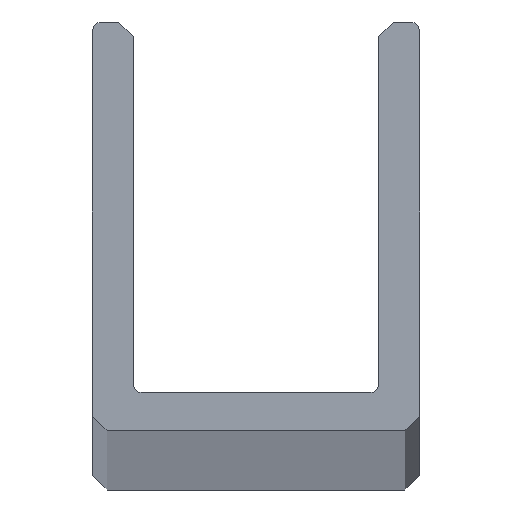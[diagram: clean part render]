
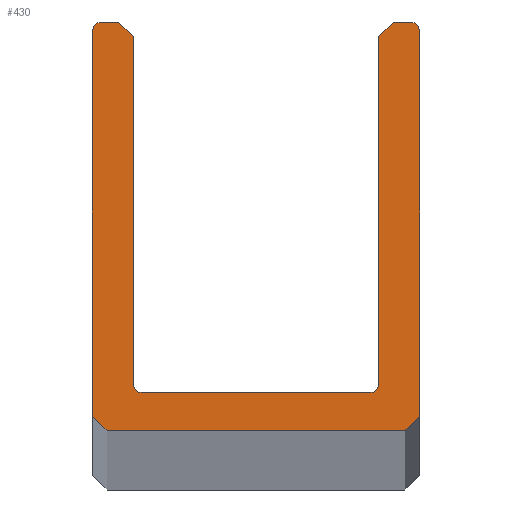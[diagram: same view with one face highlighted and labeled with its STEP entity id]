
A CAD part, top view. The second image highlights one B-rep face of the part: STEP entity #430.
In plain terms, the highlighted planar face has unit normal (0, 0, 1).
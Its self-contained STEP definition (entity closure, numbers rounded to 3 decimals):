
#2 = EDGE_CURVE ( 'NONE', #44, #163, #99, .T. ) ;
#3 = CARTESIAN_POINT ( 'NONE',  ( 5.1, -1.3, 1160. ) ) ;
#7 = LINE ( 'NONE', #456, #507 ) ;
#12 = ORIENTED_EDGE ( 'NONE', *, *, #264, .T. ) ;
#19 = CARTESIAN_POINT ( 'NONE',  ( 3.9, 0.3, 1160. ) ) ;
#44 = VERTEX_POINT ( 'NONE', #146 ) ;
#49 = CARTESIAN_POINT ( 'NONE',  ( 5.3, 12.7, 1160. ) ) ;
#53 = DIRECTION ( 'NONE',  ( -1., 0., 0. ) ) ;
#54 = CARTESIAN_POINT ( 'NONE',  ( -5.1, -1.3, 1160. ) ) ;
#56 = VECTOR ( 'NONE', #531, 1000. ) ;
#61 = LINE ( 'NONE', #403, #551 ) ;
#67 = VERTEX_POINT ( 'NONE', #92 ) ;
#69 = VERTEX_POINT ( 'NONE', #54 ) ;
#70 = CARTESIAN_POINT ( 'NONE',  ( 3.9, 0., 1160. ) ) ;
#71 = DIRECTION ( 'NONE',  ( 0., 1., 0. ) ) ;
#72 = EDGE_CURVE ( 'NONE', #439, #153, #409, .T. ) ;
#74 = VECTOR ( 'NONE', #547, 1000. ) ;
#88 = DIRECTION ( 'NONE',  ( 1., 0., 0. ) ) ;
#90 = EDGE_CURVE ( 'NONE', #153, #596, #323, .T. ) ;
#92 = CARTESIAN_POINT ( 'NONE',  ( 4.2, 12.2, 1160. ) ) ;
#95 = CARTESIAN_POINT ( 'NONE',  ( -5.6, -0.8, 1160. ) ) ;
#97 = CARTESIAN_POINT ( 'NONE',  ( -3.9, 0., 1160. ) ) ;
#99 = LINE ( 'NONE', #611, #327 ) ;
#102 = VECTOR ( 'NONE', #120, 1000. ) ;
#113 = CARTESIAN_POINT ( 'NONE',  ( -4.2, 0.3, 1160. ) ) ;
#114 = ORIENTED_EDGE ( 'NONE', *, *, #377, .T. ) ;
#117 = AXIS2_PLACEMENT_3D ( 'NONE', #597, #299, #53 ) ;
#120 = DIRECTION ( 'NONE',  ( 0., -1., 0. ) ) ;
#125 = AXIS2_PLACEMENT_3D ( 'NONE', #243, #446, #525 ) ;
#126 = CARTESIAN_POINT ( 'NONE',  ( -4.7, 12.7, 1160. ) ) ;
#128 = EDGE_CURVE ( 'NONE', #67, #298, #270, .T. ) ;
#132 = CARTESIAN_POINT ( 'NONE',  ( -5.3, 12.4, 1160. ) ) ;
#142 = EDGE_CURVE ( 'NONE', #298, #635, #483, .T. ) ;
#144 = ORIENTED_EDGE ( 'NONE', *, *, #2, .T. ) ;
#146 = CARTESIAN_POINT ( 'NONE',  ( 5.6, -0.8, 1160. ) ) ;
#147 = VECTOR ( 'NONE', #628, 1000. ) ;
#153 = VERTEX_POINT ( 'NONE', #113 ) ;
#158 = ORIENTED_EDGE ( 'NONE', *, *, #254, .T. ) ;
#163 = VERTEX_POINT ( 'NONE', #567 ) ;
#168 = CARTESIAN_POINT ( 'NONE',  ( 4.2, 0.3, 1160. ) ) ;
#170 = LINE ( 'NONE', #375, #573 ) ;
#175 = CARTESIAN_POINT ( 'NONE',  ( -5.6, -0.8, 1160. ) ) ;
#200 = AXIS2_PLACEMENT_3D ( 'NONE', #19, #624, #312 ) ;
#202 = DIRECTION ( 'NONE',  ( 0., 0., 1. ) ) ;
#210 = VECTOR ( 'NONE', #71, 1000. ) ;
#219 = CARTESIAN_POINT ( 'NONE',  ( -4.2, 0.3, 1160. ) ) ;
#231 = ORIENTED_EDGE ( 'NONE', *, *, #344, .T. ) ;
#243 = CARTESIAN_POINT ( 'NONE',  ( -3.9, 0.3, 1160. ) ) ;
#244 = DIRECTION ( 'NONE',  ( -1., 0., 0. ) ) ;
#248 = ORIENTED_EDGE ( 'NONE', *, *, #606, .T. ) ;
#250 = VERTEX_POINT ( 'NONE', #126 ) ;
#254 = EDGE_CURVE ( 'NONE', #321, #434, #580, .T. ) ;
#264 = EDGE_CURVE ( 'NONE', #539, #374, #328, .T. ) ;
#270 = LINE ( 'NONE', #168, #102 ) ;
#271 = CIRCLE ( 'NONE', #303, 0.3 ) ;
#280 = CARTESIAN_POINT ( 'NONE',  ( -5.6, 12.4, 1160. ) ) ;
#284 = VECTOR ( 'NONE', #467, 1000. ) ;
#288 = CARTESIAN_POINT ( 'NONE',  ( 4.7, 12.7, 1160. ) ) ;
#289 = ORIENTED_EDGE ( 'NONE', *, *, #463, .T. ) ;
#291 = ORIENTED_EDGE ( 'NONE', *, *, #626, .T. ) ;
#297 = DIRECTION ( 'NONE',  ( -0.707, -0.707, 0. ) ) ;
#298 = VERTEX_POINT ( 'NONE', #487 ) ;
#299 = DIRECTION ( 'NONE',  ( 0., 0., 1. ) ) ;
#301 = PLANE ( 'NONE',  #370 ) ;
#303 = AXIS2_PLACEMENT_3D ( 'NONE', #132, #333, #88 ) ;
#306 = ORIENTED_EDGE ( 'NONE', *, *, #90, .T. ) ;
#312 = DIRECTION ( 'NONE',  ( 1., 0., 0. ) ) ;
#318 = CARTESIAN_POINT ( 'NONE',  ( 5.6, -0.8, 1160. ) ) ;
#321 = VERTEX_POINT ( 'NONE', #388 ) ;
#323 = LINE ( 'NONE', #219, #210 ) ;
#324 = LINE ( 'NONE', #459, #284 ) ;
#327 = VECTOR ( 'NONE', #561, 1000. ) ;
#328 = LINE ( 'NONE', #384, #56 ) ;
#333 = DIRECTION ( 'NONE',  ( 0., 0., 1. ) ) ;
#344 = EDGE_CURVE ( 'NONE', #585, #321, #271, .T. ) ;
#345 = CARTESIAN_POINT ( 'NONE',  ( -5.3, 12.4, 1160. ) ) ;
#349 = LINE ( 'NONE', #600, #608 ) ;
#360 = DIRECTION ( 'NONE',  ( 0.707, 0.707, 0. ) ) ;
#364 = CARTESIAN_POINT ( 'NONE',  ( -4.2, 12.2, 1160. ) ) ;
#367 = DIRECTION ( 'NONE',  ( -1., 0., 0. ) ) ;
#370 = AXIS2_PLACEMENT_3D ( 'NONE', #345, #202, #506 ) ;
#374 = VERTEX_POINT ( 'NONE', #288 ) ;
#375 = CARTESIAN_POINT ( 'NONE',  ( -4.7, 12.7, 1160. ) ) ;
#377 = EDGE_CURVE ( 'NONE', #434, #69, #494, .T. ) ;
#384 = CARTESIAN_POINT ( 'NONE',  ( 4.7, 12.7, 1160. ) ) ;
#388 = CARTESIAN_POINT ( 'NONE',  ( -5.6, 12.4, 1160. ) ) ;
#401 = CIRCLE ( 'NONE', #117, 0.3 ) ;
#402 = EDGE_CURVE ( 'NONE', #374, #67, #349, .T. ) ;
#403 = CARTESIAN_POINT ( 'NONE',  ( 3.9, 0., 1160. ) ) ;
#406 = ORIENTED_EDGE ( 'NONE', *, *, #550, .T. ) ;
#409 = CIRCLE ( 'NONE', #125, 0.3 ) ;
#411 = EDGE_LOOP ( 'NONE', ( #406, #291, #231, #158, #114, #491, #248, #144, #289, #12, #640, #637, #535, #607, #523, #306 ) ) ;
#419 = CARTESIAN_POINT ( 'NONE',  ( -5.3, 12.7, 1160. ) ) ;
#422 = VERTEX_POINT ( 'NONE', #3 ) ;
#430 = ADVANCED_FACE ( 'NONE', ( #554 ), #301, .T. ) ;
#434 = VERTEX_POINT ( 'NONE', #95 ) ;
#439 = VERTEX_POINT ( 'NONE', #97 ) ;
#446 = DIRECTION ( 'NONE',  ( 0., 0., -1. ) ) ;
#450 = EDGE_CURVE ( 'NONE', #69, #422, #7, .T. ) ;
#456 = CARTESIAN_POINT ( 'NONE',  ( -5.1, -1.3, 1160. ) ) ;
#459 = CARTESIAN_POINT ( 'NONE',  ( -4.2, 12.2, 1160. ) ) ;
#463 = EDGE_CURVE ( 'NONE', #163, #539, #401, .T. ) ;
#467 = DIRECTION ( 'NONE',  ( -0.707, 0.707, 0. ) ) ;
#471 = EDGE_CURVE ( 'NONE', #635, #439, #61, .T. ) ;
#483 = CIRCLE ( 'NONE', #200, 0.3 ) ;
#487 = CARTESIAN_POINT ( 'NONE',  ( 4.2, 0.3, 1160. ) ) ;
#491 = ORIENTED_EDGE ( 'NONE', *, *, #450, .T. ) ;
#494 = LINE ( 'NONE', #175, #74 ) ;
#506 = DIRECTION ( 'NONE',  ( 1., 0., 0. ) ) ;
#507 = VECTOR ( 'NONE', #641, 1000. ) ;
#523 = ORIENTED_EDGE ( 'NONE', *, *, #72, .T. ) ;
#525 = DIRECTION ( 'NONE',  ( -1., 0., 0. ) ) ;
#531 = DIRECTION ( 'NONE',  ( -1., 0., 0. ) ) ;
#535 = ORIENTED_EDGE ( 'NONE', *, *, #142, .T. ) ;
#539 = VERTEX_POINT ( 'NONE', #49 ) ;
#547 = DIRECTION ( 'NONE',  ( 0.707, -0.707, 0. ) ) ;
#550 = EDGE_CURVE ( 'NONE', #596, #250, #324, .T. ) ;
#551 = VECTOR ( 'NONE', #244, 1000. ) ;
#554 = FACE_OUTER_BOUND ( 'NONE', #411, .T. ) ;
#561 = DIRECTION ( 'NONE',  ( 0., 1., 0. ) ) ;
#566 = LINE ( 'NONE', #318, #610 ) ;
#567 = CARTESIAN_POINT ( 'NONE',  ( 5.6, 12.4, 1160. ) ) ;
#573 = VECTOR ( 'NONE', #367, 1000. ) ;
#580 = LINE ( 'NONE', #280, #147 ) ;
#585 = VERTEX_POINT ( 'NONE', #419 ) ;
#596 = VERTEX_POINT ( 'NONE', #364 ) ;
#597 = CARTESIAN_POINT ( 'NONE',  ( 5.3, 12.4, 1160. ) ) ;
#600 = CARTESIAN_POINT ( 'NONE',  ( 4.2, 12.2, 1160. ) ) ;
#606 = EDGE_CURVE ( 'NONE', #422, #44, #566, .T. ) ;
#607 = ORIENTED_EDGE ( 'NONE', *, *, #471, .T. ) ;
#608 = VECTOR ( 'NONE', #297, 1000. ) ;
#610 = VECTOR ( 'NONE', #360, 1000. ) ;
#611 = CARTESIAN_POINT ( 'NONE',  ( 5.6, 12.4, 1160. ) ) ;
#624 = DIRECTION ( 'NONE',  ( 0., 0., -1. ) ) ;
#626 = EDGE_CURVE ( 'NONE', #250, #585, #170, .T. ) ;
#628 = DIRECTION ( 'NONE',  ( 0., -1., 0. ) ) ;
#635 = VERTEX_POINT ( 'NONE', #70 ) ;
#637 = ORIENTED_EDGE ( 'NONE', *, *, #128, .T. ) ;
#640 = ORIENTED_EDGE ( 'NONE', *, *, #402, .T. ) ;
#641 = DIRECTION ( 'NONE',  ( 1., 0., 0. ) ) ;
